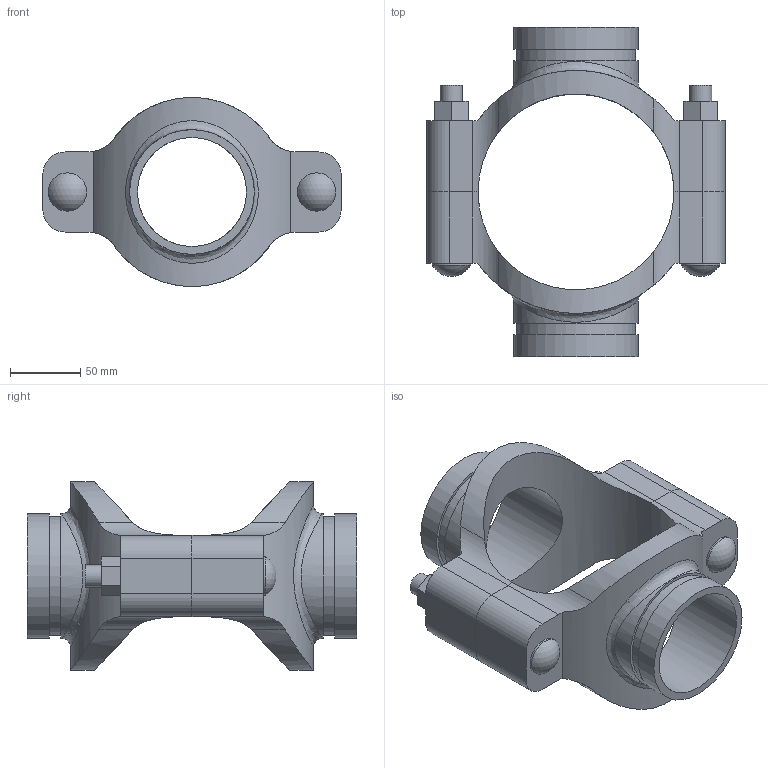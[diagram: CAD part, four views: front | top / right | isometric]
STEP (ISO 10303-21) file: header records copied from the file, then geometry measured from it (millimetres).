
FILE_DESCRIPTION(/* description */ ('VIC MECH-T BRANCH OUTLET CROSS STYLE 920N (GRVD)','CAx-IF Rec.Pracs.---Representation and Presentation of Product Manufacturing Information (PMI)---4.0---2014-10-13'),/* implementation_level */ '2;1');
FILE_NAME(/* name */ 'C:\Users\Vjadhav\AppData\Roaming\Autodesk\ApplicationPlugins\Back Up\Victaulic_IPS_Mechanical-Cross Outlet_Style 920N (OGS)\Victaulic_IPS_Mechanical-Cross Outlet_05.0 (139.7)x03.0x03.0 (125x80x80).stp',/* time_stamp */ '2020-08-06T19:44:11+05:00',/* author */ ('Vjadhav'),/* organization */ ('Victaulic'),/* preprocessor_version */ 'ST-DEVELOPER v17.2',/* originating_system */ 'Autodesk Inventor 2019',/* authorisation */ '');
FILE_SCHEMA (('AP242_MANAGED_MODEL_BASED_3D_ENGINEERING_MIM_LF { 1 0 10303 442 1 1 4 }'));
Length unit declared in the file: inch
Products named in the file (3): 920NG-05.0 (139.7)x03.0x03.0; 920G-05.0 (139.7)x03.0; 920G-05.0 (139.7)x03.0_1
Assembly tree (2 placements, depth 2):
  920NG-05.0 (139.7)x03.0x03.0
    920G-05.0 (139.7)x03.0
    920G-05.0 (139.7)x03.0_1
Bounding box: 212.85 x 235.2 x 134.79 mm (x, y, z)
Volume: 929237.6 mm3; surface area: 183660.5 mm2
Topology: 2 solids, 2 shells, 104 faces, 262 edges, 178 vertices
Faces by surface type: plane 54, cylinder 46, sphere 2, bspline 2
Full cylindrical faces by diameter (mm): 15.875 x4, 27.381 x2, 77.787 x2, 84.938 x2, 88.9 x4
Entity records: 4206 total; most frequent: CARTESIAN_POINT 1433, DIRECTION 532, ORIENTED_EDGE 524, EDGE_CURVE 262, AXIS2_PLACEMENT_3D 193, VERTEX_POINT 178, LINE 146, VECTOR 146
